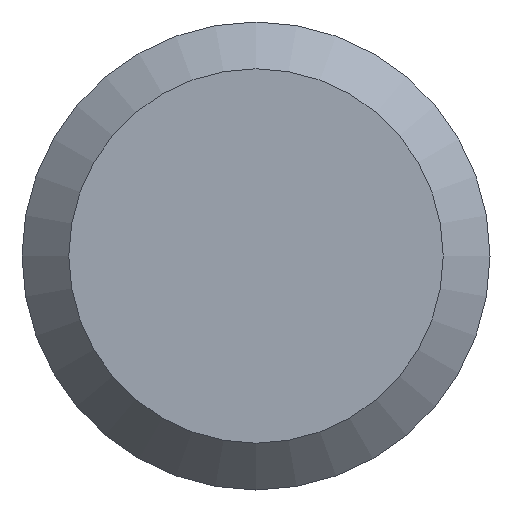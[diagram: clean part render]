
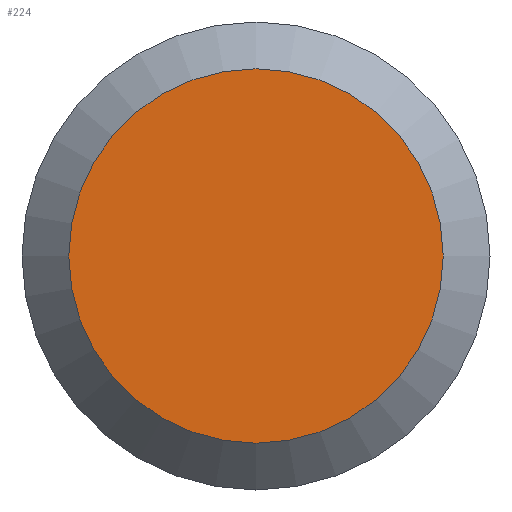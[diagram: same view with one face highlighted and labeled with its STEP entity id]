
A CAD part, left-side view. The second image highlights one B-rep face of the part: STEP entity #224.
In plain terms, the highlighted planar face has unit normal (-1, 0, 0).
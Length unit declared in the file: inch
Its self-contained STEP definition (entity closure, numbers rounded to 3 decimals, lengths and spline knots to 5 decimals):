
#2 = CIRCLE ( 'NONE', #246, 0.1508 ) ;
#12 = DIRECTION ( 'NONE',  ( 0., 0., -1. ) ) ;
#31 = CARTESIAN_POINT ( 'NONE',  ( 0., 0.1885, 0. ) ) ;
#34 = EDGE_CURVE ( 'NONE', #56, #56, #2, .T. ) ;
#47 = EDGE_LOOP ( 'NONE', ( #233 ) ) ;
#56 = VERTEX_POINT ( 'NONE', #191 ) ;
#93 = AXIS2_PLACEMENT_3D ( 'NONE', #31, #182, #168 ) ;
#145 = FACE_OUTER_BOUND ( 'NONE', #47, .T. ) ;
#160 = CARTESIAN_POINT ( 'NONE',  ( 0., 0., 0. ) ) ;
#163 = PLANE ( 'NONE',  #93 ) ;
#168 = DIRECTION ( 'NONE',  ( 0., 0., -1. ) ) ;
#182 = DIRECTION ( 'NONE',  ( 1., 0., 0. ) ) ;
#191 = CARTESIAN_POINT ( 'NONE',  ( 0., 0., -0.1508 ) ) ;
#216 = DIRECTION ( 'NONE',  ( -1., 0., 0. ) ) ;
#224 = ADVANCED_FACE ( 'NONE', ( #145 ), #163, .F. ) ;
#233 = ORIENTED_EDGE ( 'NONE', *, *, #34, .T. ) ;
#246 = AXIS2_PLACEMENT_3D ( 'NONE', #160, #216, #12 ) ;
